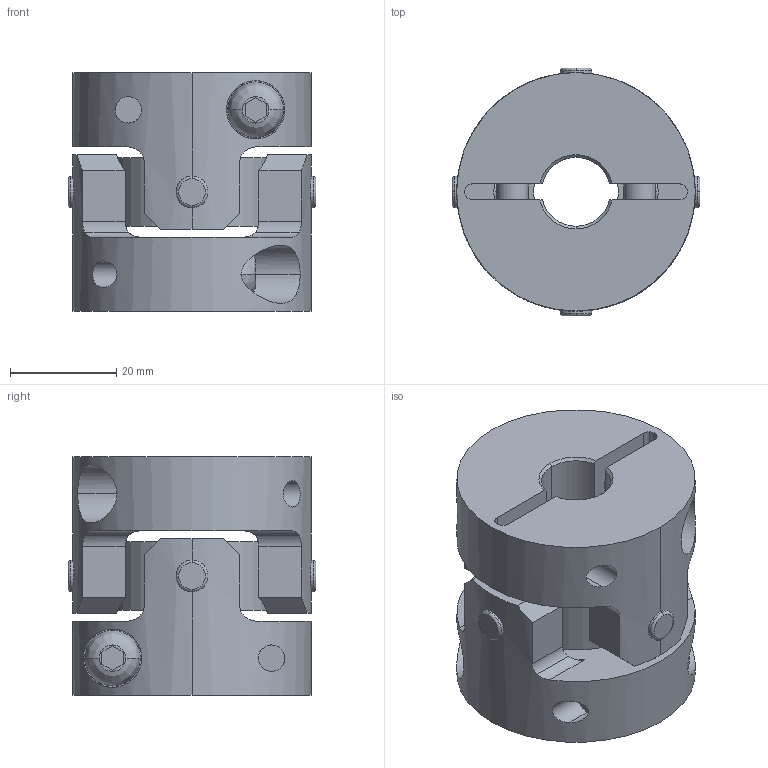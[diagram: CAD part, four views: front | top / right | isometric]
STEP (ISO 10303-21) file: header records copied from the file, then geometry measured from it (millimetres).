
FILE_DESCRIPTION((''),'2;1');
FILE_NAME('UA-45C-13×22.stp','2013-05-22T10:04:55',(''),(''),'AutoCAD STEP 2000i','AutoCAD 2000i',', , ');
FILE_SCHEMA(('CONFIG_CONTROL_DESIGN'));
Length unit declared in the file: millimetre
Products named in the file (7): UA-45C-8×17; 忣兜1; UA-4502-D17; BTN-M6; UA-4502-D08-1; UA-4502-D08; UA45-SEN
Assembly tree (8 placements, depth 3):
  UA-45C-8×17
    忣兜1
    UA-4502-D17
      BTN-M6
    UA-4502-D08-1
      BTN-M6
    UA-4502-D08
      BTN-M6
    UA45-SEN
Bounding box: 46.73 x 46.73 x 45 mm (x, y, z)
Volume: 47263.8 mm3; surface area: 19609.8 mm2
Topology: 1 solids, 1 shells, 206 faces, 554 edges, 364 vertices
Faces by surface type: cylinder 96, plane 78, cone 16, bspline 8, torus 8
Entity records: 8537 total; most frequent: CARTESIAN_POINT 3201, ORIENTED_EDGE 1108, DIRECTION 1068, EDGE_CURVE 554, AXIS2_PLACEMENT_3D 411, VERTEX_POINT 364, VECTOR 246, LINE 246
